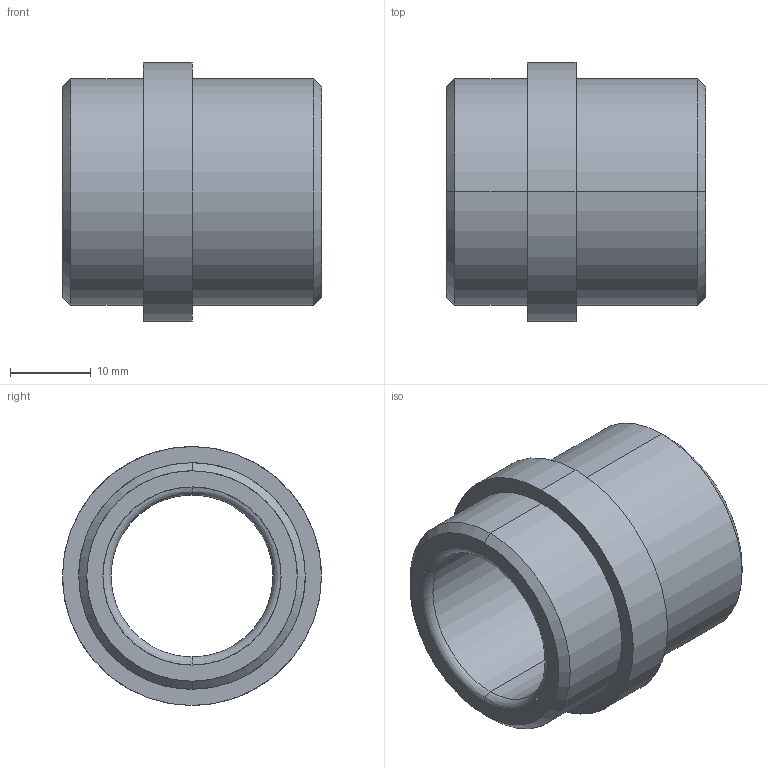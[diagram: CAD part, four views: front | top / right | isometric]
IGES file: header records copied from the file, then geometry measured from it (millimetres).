
Start section: START RECORD GO HERE.
Global section: file name: G403-20X32.igs; native system: DASSAULT SYSTEMES CATIA V5 R20 - www.3ds.com; preprocessor: CATIA Version 5 Release 20 ; author: Utente; organization: NB04-ASUS; date: 20210421.133043; units: millimetre
Bounding box: 32 x 32 x 32 mm (x, y, z)
Surface area: 5722.4 mm2 (no closed solid volume)
Topology: 0 solids, 0 shells, 20 faces, 128 edges, 128 vertices
Faces by surface type: revolution 16, plane 4
